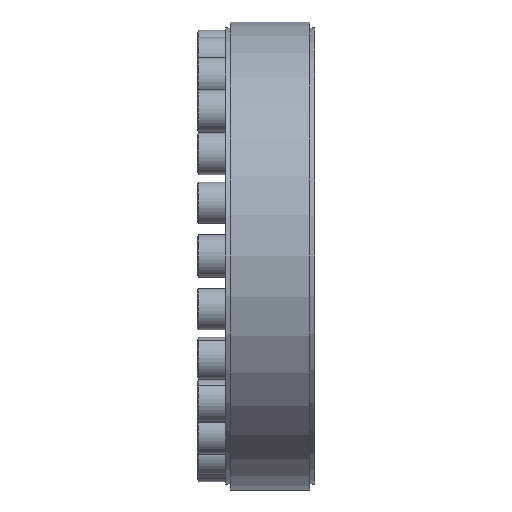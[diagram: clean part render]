
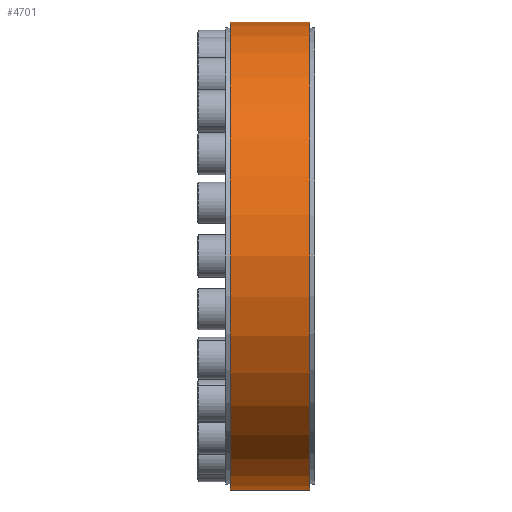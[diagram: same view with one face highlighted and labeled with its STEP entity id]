
A CAD part, front view. The second image highlights one B-rep face of the part: STEP entity #4701.
In plain terms, the highlighted cylindrical face has radius 100 mm (diameter 200 mm), a partial arc.
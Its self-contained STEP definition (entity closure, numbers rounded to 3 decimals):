
#2039 = EDGE_CURVE ( 'NONE', #2053, #2108, #8085, .T. ) ;
#2040 = EDGE_CURVE ( 'NONE', #2052, #2041, #8145, .T. ) ;
#2041 = VERTEX_POINT ( 'NONE', #8141 ) ;
#2052 = VERTEX_POINT ( 'NONE', #8123 ) ;
#2053 = VERTEX_POINT ( 'NONE', #8122 ) ;
#2108 = VERTEX_POINT ( 'NONE', #8232 ) ;
#4696 = ORIENTED_EDGE ( 'NONE', *, *, #4697, .F. ) ;
#4697 = EDGE_CURVE ( 'NONE', #2041, #2108, #12554, .T. ) ;
#4700 = EDGE_CURVE ( 'NONE', #2052, #2053, #12542, .T. ) ;
#4701 = ADVANCED_FACE ( 'NONE', ( #12537 ), #12536, .T. ) ;
#4709 = ORIENTED_EDGE ( 'NONE', *, *, #4700, .T. ) ;
#4710 = ORIENTED_EDGE ( 'NONE', *, *, #2039, .T. ) ;
#4711 = EDGE_LOOP ( 'NONE', ( #4714, #4709, #4710, #4696 ) ) ;
#4714 = ORIENTED_EDGE ( 'NONE', *, *, #2040, .F. ) ;
#8083 = VECTOR ( 'NONE', #8146, 1000. ) ;
#8084 = CARTESIAN_POINT ( 'NONE',  ( 0., 0., 100. ) ) ;
#8085 = LINE ( 'NONE', #8084, #8083 ) ;
#8122 = CARTESIAN_POINT ( 'NONE',  ( 36., 0., 100. ) ) ;
#8123 = CARTESIAN_POINT ( 'NONE',  ( 36., 0., -100. ) ) ;
#8141 = CARTESIAN_POINT ( 'NONE',  ( 2., 0., -100. ) ) ;
#8142 = DIRECTION ( 'NONE',  ( -1., 0., 0. ) ) ;
#8143 = VECTOR ( 'NONE', #8142, 1000. ) ;
#8144 = CARTESIAN_POINT ( 'NONE',  ( 0., 0., -100. ) ) ;
#8145 = LINE ( 'NONE', #8144, #8143 ) ;
#8146 = DIRECTION ( 'NONE',  ( -1., 0., 0. ) ) ;
#8232 = CARTESIAN_POINT ( 'NONE',  ( 2., 0., 100. ) ) ;
#12531 = DIRECTION ( 'NONE',  ( 0., 0., 1. ) ) ;
#12532 = DIRECTION ( 'NONE',  ( -1., 0., 0. ) ) ;
#12533 = CARTESIAN_POINT ( 'NONE',  ( 0., 0., 0. ) ) ;
#12534 = AXIS2_PLACEMENT_3D ( 'NONE', #12533, #12532, #12531 ) ;
#12536 = CYLINDRICAL_SURFACE ( 'NONE', #12534, 100. ) ;
#12537 = FACE_OUTER_BOUND ( 'NONE', #4711, .T. ) ;
#12538 = DIRECTION ( 'NONE',  ( 0., 0., 1. ) ) ;
#12539 = DIRECTION ( 'NONE',  ( -1., 0., 0. ) ) ;
#12540 = CARTESIAN_POINT ( 'NONE',  ( 36., 0., 0. ) ) ;
#12541 = AXIS2_PLACEMENT_3D ( 'NONE', #12540, #12539, #12538 ) ;
#12542 = CIRCLE ( 'NONE', #12541, 100. ) ;
#12550 = DIRECTION ( 'NONE',  ( 0., 0., 1. ) ) ;
#12551 = DIRECTION ( 'NONE',  ( -1., 0., 0. ) ) ;
#12552 = CARTESIAN_POINT ( 'NONE',  ( 2., 0., 0. ) ) ;
#12553 = AXIS2_PLACEMENT_3D ( 'NONE', #12552, #12551, #12550 ) ;
#12554 = CIRCLE ( 'NONE', #12553, 100. ) ;
